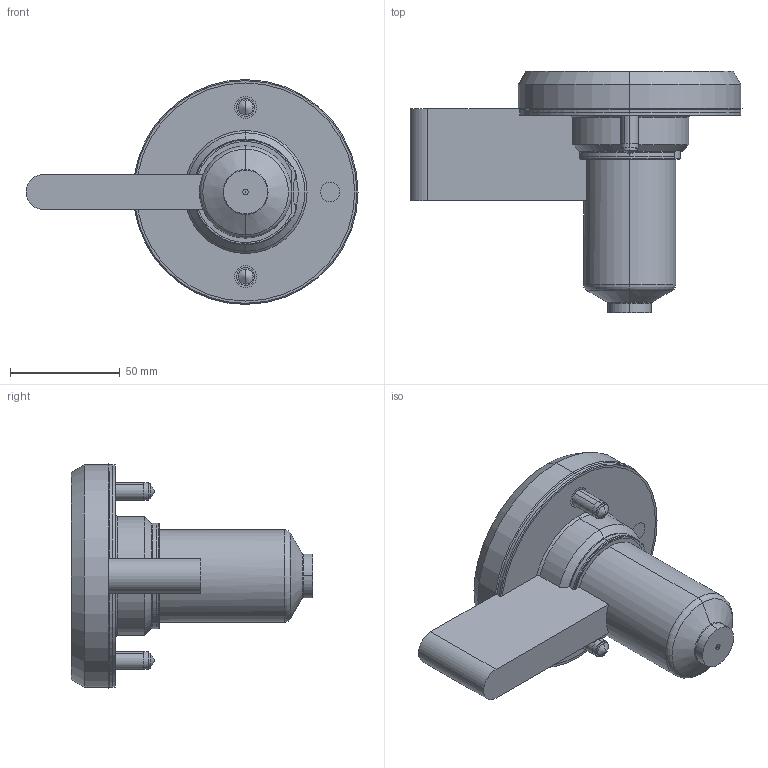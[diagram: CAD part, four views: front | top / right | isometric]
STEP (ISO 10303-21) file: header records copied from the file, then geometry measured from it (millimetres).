
FILE_DESCRIPTION (( 'STEP AP214' ), '1' );
FILE_NAME ('SOHSB16070-SOFBOP16.STEP', '2024-11-28T08:49:55', ( '' ), ( '' ), 'SwSTEP 2.0', 'SolidWorks 2022', '' );
FILE_SCHEMA (( 'AUTOMOTIVE_DESIGN' ));
Length unit declared in the file: millimetre
Products named in the file (11): EcoONE-HSB16-16004_SONH28062; EcoONE-HSB16-16003(A)_SOHSBNB16070; EcoONE-HSB16-Open Gate Full Body Standad Tip Assembly_SOFBOP16; EcoONE-HSB16-Point Gate Needle Tip-Standard_SOPGN1601; EcoONE-HSB16-Open Gate Cut-out Details_Sprue Gate or Full Body Gate; SOHSB16070-SOFBOP16; EcoONE-HSB16-16005_SOTC10350-J; socket head cap screw_iso_ISO 4762 M8 x 25 - 25N; EcoONE-HSB16-Open Gate Full Body Retainer Tip_SOFRT1601; EcoONE-HSB16-16006_SONHC16; EcoONE-HSB16-00002(A)_SOHSBLR16
Assembly tree (12 placements, depth 3):
  SOHSB16070-SOFBOP16
    EcoONE-HSB16-16003(A)_SOHSBNB16070
    EcoONE-HSB16-16004_SONH28062
    EcoONE-HSB16-16005_SOTC10350-J
    EcoONE-HSB16-16006_SONHC16  x2
    EcoONE-HSB16-00002(A)_SOHSBLR16
    socket head cap screw_iso_ISO 4762 M8 x 25 - 25N  x2
    EcoONE-HSB16-Open Gate Full Body Standad Tip Assembly_SOFBOP16
      EcoONE-HSB16-Open Gate Full Body Retainer Tip_SOFRT1601
      EcoONE-HSB16-Point Gate Needle Tip-Standard_SOPGN1601
    EcoONE-HSB16-Open Gate Cut-out Details_Sprue Gate or Full Body Gate
Bounding box: 151.2 x 110 x 102.4 mm (x, y, z)
Volume: 399700.7 mm3; surface area: 103716 mm2
Topology: 11 solids, 11 shells, 509 faces, 1270 edges, 796 vertices
Faces by surface type: cylinder 157, plane 136, bspline 99, cone 83, torus 26, sphere 8
Entity records: 29187 total; most frequent: CARTESIAN_POINT 17874, ORIENTED_EDGE 2316, DIRECTION 1960, EDGE_CURVE 1158, AXIS2_PLACEMENT_3D 790, VERTEX_POINT 733, EDGE_LOOP 505, FACE_OUTER_BOUND 466
